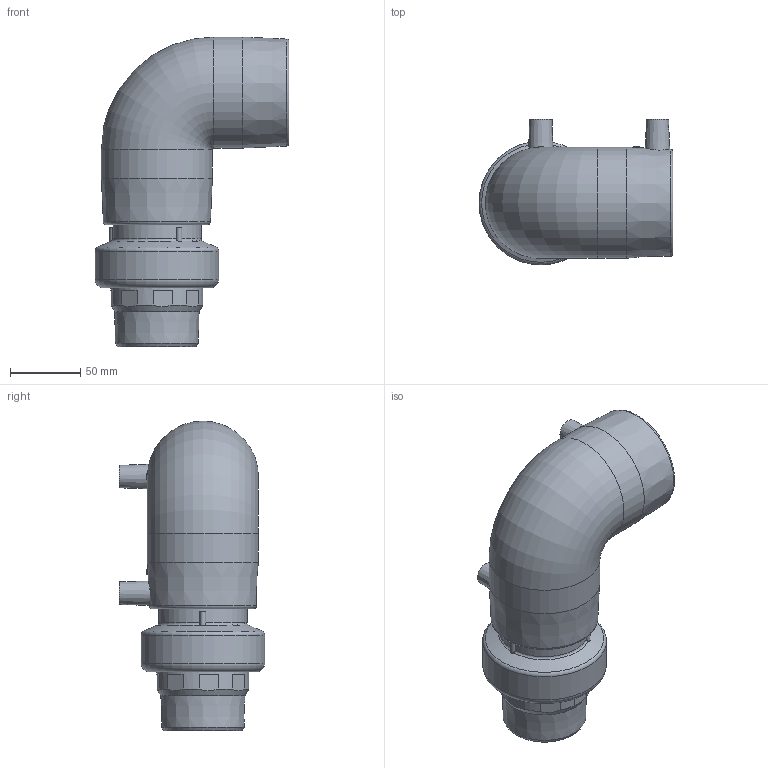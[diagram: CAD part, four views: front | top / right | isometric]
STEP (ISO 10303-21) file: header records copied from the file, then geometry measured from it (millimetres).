
FILE_DESCRIPTION(/* description */ ('Unknown'),/* implementation_level */ '2;1');
FILE_NAME(/* name */ 'GE9TMP063C',/* time_stamp */ '2021-03-02T12:27:03+01:00',/* author */ ('Unknown'),/* organization */ ('Unknown'),/* preprocessor_version */ 'ST-DEVELOPER v16.7',/* originating_system */ 'Solid Edge',/* authorisation */ 'Unknown');
FILE_SCHEMA (('AUTOMOTIVE_DESIGN {1 0 10303 214 3 1 1}'));
Length unit declared in the file: millimetre
Products named in the file (5): GE9TMP063C; GE9P063C; RTOMP063C; Parte PE 063; IOM063C
Assembly tree (4 placements, depth 3):
  GE9TMP063C
    GE9P063C
    RTOMP063C
      Parte PE 063
      IOM063C
Bounding box: 138 x 103.5 x 220.5 mm (x, y, z)
Volume: 551729.1 mm3; surface area: 166245.8 mm2
Topology: 3 solids, 3 shells, 432 faces, 1188 edges, 782 vertices
Faces by surface type: cylinder 194, cone 104, plane 85, bspline 27, torus 22
Full cylindrical faces by diameter (mm): 4 x4, 12 x2, 51.4 x1, 52.4 x1, 55.6 x2, 60 x2, 60.2 x2, 63 x3, 65.5 x1, 69.8 x2, 74 x4, 79 x2, 88 x1
Entity records: 18961 total; most frequent: CARTESIAN_POINT 7810, ORIENTED_EDGE 2226, DIRECTION 1730, EDGE_CURVE 1113, AXIS2_PLACEMENT_3D 779, VERTEX_POINT 758, B_SPLINE_CURVE_WITH_KNOTS 524, EDGE_LOOP 509
